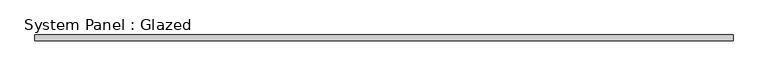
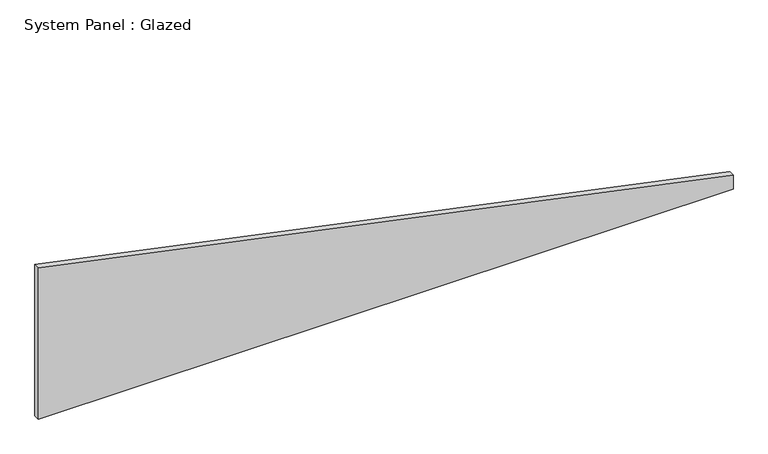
"""IFC4 building model written with IfcOpenShell, lengths in millimetres: plate geometry, System Panel : Glazed."""

from ifc_helpers import new_model, si_unit, frame, origin, place, context, project, spatial, polyline, outline, extrude, source, transform, mapped, element, save


def system_panel_glazed_b129e1d1(model_context):
    return source(origin(), model_context, "Body", "SweptSolid", [
        extrude(outline(polyline([(0.0, -1504.95), (0.0, 1504.95), (65.3115256, 1504.95), (692.289634, -1504.95), (0.0, -1504.95)])), frame((0.0, 19.05, 0.0), z_axis=(0.0, 1.0, 0.0), x_axis=(0.0, 0.0, 1.0)), (0.0, 0.0, 1.0), 25.4),
    ])


if __name__ == "__main__":
    model = new_model("IFC4")
    model_context = context("Model", 3, world=origin())
    ifc_project = project(units=[si_unit("LENGTHUNIT", "METRE", prefix="MILLI")], contexts=[model_context])
    site = spatial("IfcSite", under=ifc_project)
    building = spatial("IfcBuilding", under=site)
    placement = place(None, origin())
    system_panel_glazed_shape = system_panel_glazed_b129e1d1(model_context)
    element("IfcPlate", 1, ObjectType="System Panel : Glazed", at=placement, inside=building, context=model_context, shape_type="MappedRepresentation", body=[
        mapped(system_panel_glazed_shape, transform((0.0, 0.0, 0.0), x_axis=(1.0, 0.0, 0.0), y_axis=(0.0, 1.0, 0.0), z_axis=(0.0, 0.0, 1.0))),
    ])
    save(model, "model.ifc")
